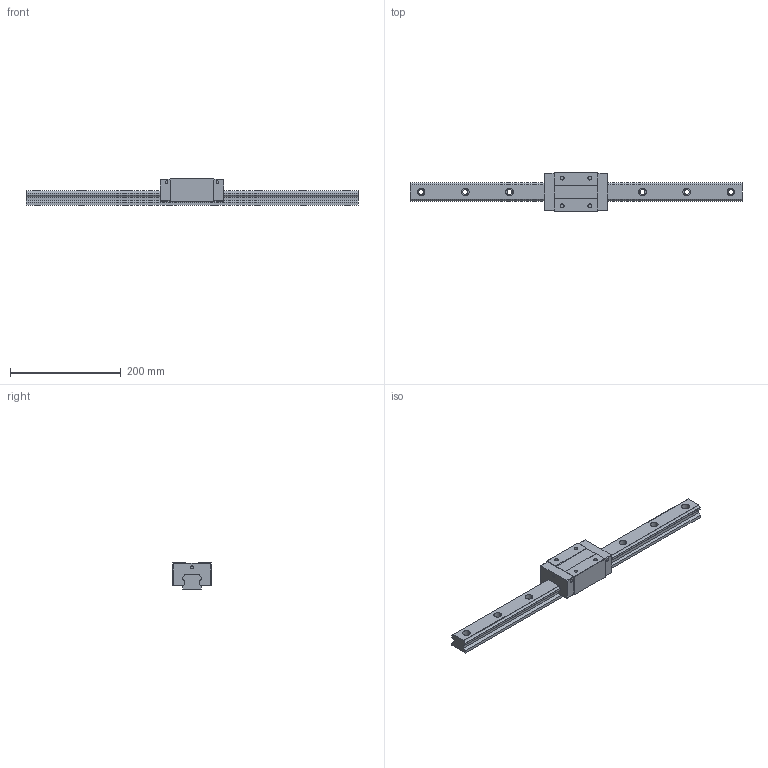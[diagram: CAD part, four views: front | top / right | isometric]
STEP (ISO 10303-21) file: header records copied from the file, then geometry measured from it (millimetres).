
FILE_DESCRIPTION (( 'STEP AP203' ), '1' );
FILE_NAME ('TRS35VN-SU.STEP', '2024-06-26T05:31:36', ( '' ), ( '' ), 'SwSTEP 2.0', 'SolidWorks 2022', '' );
FILE_SCHEMA (( 'CONFIG_CONTROL_DESIGN' ));
Length unit declared in the file: millimetre
Products named in the file (1): TRS35VN-SU
Bounding box: 600 x 70 x 48 mm (x, y, z)
Volume: 700823.3 mm3; surface area: 118074.1 mm2
Topology: 2 solids, 2 shells, 178 faces, 464 edges, 308 vertices
Faces by surface type: plane 90, cylinder 88
Entity records: 5619 total; most frequent: DIRECTION 998, CARTESIAN_POINT 951, ORIENTED_EDGE 928, EDGE_CURVE 464, AXIS2_PLACEMENT_3D 355, VERTEX_POINT 308, VECTOR 288, LINE 288
